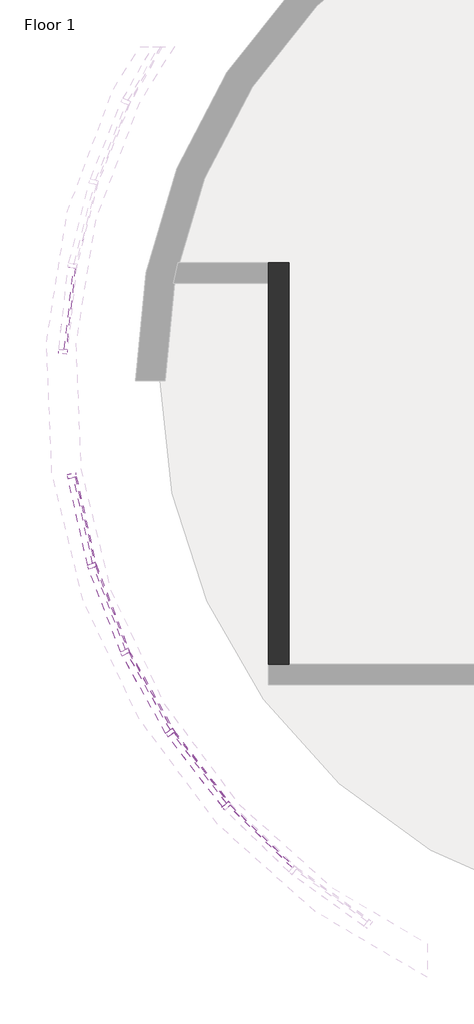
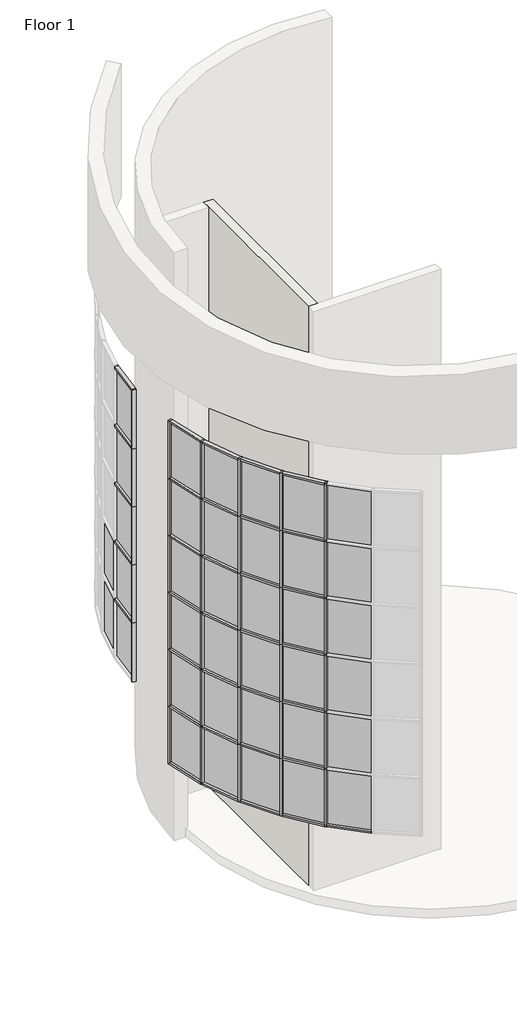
# One storey, part 1 of 11: 69 members, 37 plates, 1 wall.
"""IFC4 building model written with IfcOpenShell, lengths in millimetres."""

from ifc_helpers import new_model, si_unit, origin, place, context, project, spatial, faceted_brep, transform, mapped, element, save
from components import member_2ae322fc, member_21287d99, member_2f5ef470, member_58fb4e6d, member_233ab79f, member_23db0025, member_995572cb, member_0efe1817, member_5e46efc9, member_a397286f, member_60f5540e, member_08becc7e, member_3a2f4316, system_panel_glazed_5cc509e3, system_panel_glazed_c8739ac2, system_panel_glazed_63f175b4, system_panel_glazed_41482947

model = new_model("IFC4")

# Units and contexts
model_context = context("Model", 3, world=origin())
ifc_project = project(units=[si_unit("LENGTHUNIT", "METRE", prefix="MILLI")], contexts=[model_context])

# Site, building, storey
site = spatial("IfcSite", under=ifc_project)
building = spatial("IfcBuilding", under=site)
storey = spatial("IfcBuildingStorey", under=building, Name="Floor 1", Elevation=0.0)

# Members
placement = place(None, origin())
member_shape = member_2ae322fc(model_context)
element("IfcMember", 1, ObjectType="Rectangular Mullion1 : 2.5\" x 5\" rectangular", at=placement, inside=storey, context=model_context, shape_type="MappedRepresentation", body=[
    mapped(member_shape, transform((-3372.5370712, 19812.4001373, 15849.6), x_axis=(0.0, 0.0, 1.0), y_axis=(-0.9938242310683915, 0.11096575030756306, 0.0), z_axis=(-0.11096575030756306, -0.9938242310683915, 0.0))),
])
member_2_shape = member_21287d99(model_context)
element("IfcMember", 2, ObjectType="Rectangular Mullion1 : 2.5\" x 5\" rectangular", at=placement, inside=storey, context=model_context, shape_type="MappedRepresentation", body=[
    mapped(member_2_shape, transform((-3372.5370712, 19812.4001373, 7578.09), x_axis=(0.0, 0.0, 1.0), y_axis=(-0.9938242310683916, 0.11096575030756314, 0.0), z_axis=(-0.11096575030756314, -0.9938242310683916, 0.0))),
])
element("IfcMember", 3, ObjectType="Rectangular Mullion1 : 2.5\" x 5\" rectangular", at=placement, inside=storey, context=model_context, shape_type="MappedRepresentation", body=[
    mapped(member_2_shape, transform((-3372.5370712, 19812.4001373, 9638.03), x_axis=(0.0, 0.0, 1.0), y_axis=(-0.9938242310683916, 0.11096575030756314, 0.0), z_axis=(-0.11096575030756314, -0.9938242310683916, 0.0))),
])
element("IfcMember", 4, ObjectType="Rectangular Mullion1 : 2.5\" x 5\" rectangular", at=placement, inside=storey, context=model_context, shape_type="MappedRepresentation", body=[
    mapped(member_2_shape, transform((-3372.5370712, 19812.4001373, 11697.97), x_axis=(0.0, 0.0, 1.0), y_axis=(-0.9938242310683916, 0.11096575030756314, 0.0), z_axis=(-0.11096575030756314, -0.9938242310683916, 0.0))),
])
element("IfcMember", 5, ObjectType="Rectangular Mullion1 : 2.5\" x 5\" rectangular", at=placement, inside=storey, context=model_context, shape_type="MappedRepresentation", body=[
    mapped(member_2_shape, transform((-3372.5370712, 19812.4001373, 13757.91), x_axis=(0.0, 0.0, 1.0), y_axis=(-0.9938242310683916, 0.11096575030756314, 0.0), z_axis=(-0.11096575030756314, -0.9938242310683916, 0.0))),
])
member_3_shape = member_2f5ef470(model_context)
element("IfcMember", 6, ObjectType="Rectangular Mullion1 : 2.5\" x 5\" rectangular", at=placement, inside=storey, context=model_context, shape_type="MappedRepresentation", body=[
    mapped(member_3_shape, transform((-3234.0499823, 17868.9864839, 3657.6), x_axis=(0.0, 0.0, -1.0), y_axis=(-0.9758306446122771, -0.2185281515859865, 0.0), z_axis=(-0.21852815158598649, 0.975830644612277, 0.0))),
])
member_4_shape = member_58fb4e6d(model_context)
element("IfcMember", 7, ObjectType="Rectangular Mullion1 : 2.5\" x 5\" rectangular", at=placement, inside=storey, context=model_context, shape_type="MappedRepresentation", body=[
    mapped(member_4_shape, transform((-2941.3488489, 16561.9387028, 15849.6), x_axis=(0.0, 0.0, 1.0), y_axis=(-0.9758306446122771, -0.2185281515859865, 0.0), z_axis=(0.21852815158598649, -0.975830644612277, 0.0))),
])
member_5_shape = member_233ab79f(model_context)
element("IfcMember", 8, ObjectType="Rectangular Mullion1 : 2.5\" x 5\" rectangular", at=placement, inside=storey, context=model_context, shape_type="MappedRepresentation", body=[
    mapped(member_5_shape, transform((-2442.4749788, 15251.0699632, 15849.6), x_axis=(0.0, 0.0, 1.0), y_axis=(-0.9334258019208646, -0.3587705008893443, 0.0), z_axis=(0.35877050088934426, -0.9334258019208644, 0.0))),
])
element("IfcMember", 9, ObjectType="Rectangular Mullion1 : 2.5\" x 5\" rectangular", at=placement, inside=storey, context=model_context, shape_type="MappedRepresentation", body=[
    mapped(member_5_shape, transform((-1759.3761459, 14026.0602606, 15849.6), x_axis=(0.0, 0.0, 1.0), y_axis=(-0.8717903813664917, -0.4898790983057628, 0.0), z_axis=(0.48987909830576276, -0.8717903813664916, 0.0))),
])
element("IfcMember", 10, ObjectType="Rectangular Mullion1 : 2.5\" x 5\" rectangular", at=placement, inside=storey, context=model_context, shape_type="MappedRepresentation", body=[
    mapped(member_5_shape, transform((-906.4404132, 12912.6091289, 15849.6), x_axis=(0.0, 0.0, 1.0), y_axis=(-0.7918574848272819, -0.6107059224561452, 0.0), z_axis=(0.6107059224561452, -0.7918574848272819, 0.0))),
])
element("IfcMember", 11, ObjectType="Rectangular Mullion1 : 2.5\" x 5\" rectangular", at=placement, inside=storey, context=model_context, shape_type="MappedRepresentation", body=[
    mapped(member_5_shape, transform((-2923.0196167, 16501.3198106, 3657.6), x_axis=(0.0, 0.0, -1.0), y_axis=(-0.9334258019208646, -0.3587705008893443, 0.0), z_axis=(-0.3587705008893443, 0.9334258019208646, 0.0))),
])
element("IfcMember", 12, ObjectType="Rectangular Mullion1 : 2.5\" x 5\" rectangular", at=placement, inside=storey, context=model_context, shape_type="MappedRepresentation", body=[
    mapped(member_5_shape, transform((-2415.530354, 15193.7543494, 3657.6), x_axis=(0.0, 0.0, -1.0), y_axis=(-0.8717903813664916, -0.4898790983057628, 0.0), z_axis=(-0.4898790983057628, 0.8717903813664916, 0.0))),
])
element("IfcMember", 13, ObjectType="Rectangular Mullion1 : 2.5\" x 5\" rectangular", at=placement, inside=storey, context=model_context, shape_type="MappedRepresentation", body=[
    mapped(member_5_shape, transform((-1724.4325715, 13973.2394409, 3657.6), x_axis=(0.0, 0.0, -1.0), y_axis=(-0.7918574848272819, -0.6107059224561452, 0.0), z_axis=(-0.6107059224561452, 0.7918574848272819, 0.0))),
])
element("IfcMember", 14, ObjectType="Rectangular Mullion1 : 2.5\" x 5\" rectangular", at=placement, inside=storey, context=model_context, shape_type="MappedRepresentation", body=[
    mapped(member_5_shape, transform((-864.2312985, 12865.3917271, 3657.6), x_axis=(0.0, 0.0, -1.0), y_axis=(-0.6953047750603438, -0.7187150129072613, 0.0), z_axis=(-0.7187150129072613, 0.6953047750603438, 0.0))),
])
member_6_shape = member_23db0025(model_context)
element("IfcMember", 15, ObjectType="Rectangular Mullion1 : 2.5\" x 5\" rectangular", at=placement, inside=storey, context=model_context, shape_type="MappedRepresentation", body=[
    mapped(member_6_shape, transform((-2941.3488489, 16561.9387028, 5710.7666667), x_axis=(0.0, 0.0, 1.0), y_axis=(-0.9758306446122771, -0.2185281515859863, 0.0), z_axis=(0.2185281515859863, -0.9758306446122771, 0.0))),
])
member_7_shape = member_995572cb(model_context)
element("IfcMember", 16, ObjectType="Rectangular Mullion1 : 2.5\" x 5\" rectangular", at=placement, inside=storey, context=model_context, shape_type="MappedRepresentation", body=[
    mapped(member_7_shape, transform((-2442.4749788, 15251.0699632, 5710.7666667), x_axis=(0.0, 0.0, 1.0), y_axis=(-0.9334258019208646, -0.3587705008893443, 0.0), z_axis=(0.35877050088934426, -0.9334258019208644, 0.0))),
])
element("IfcMember", 17, ObjectType="Rectangular Mullion1 : 2.5\" x 5\" rectangular", at=placement, inside=storey, context=model_context, shape_type="MappedRepresentation", body=[
    mapped(member_7_shape, transform((-1759.3761459, 14026.0602606, 5710.7666667), x_axis=(0.0, 0.0, 1.0), y_axis=(-0.8717903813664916, -0.4898790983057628, 0.0), z_axis=(0.4898790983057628, -0.8717903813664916, 0.0))),
])
element("IfcMember", 18, ObjectType="Rectangular Mullion1 : 2.5\" x 5\" rectangular", at=placement, inside=storey, context=model_context, shape_type="MappedRepresentation", body=[
    mapped(member_7_shape, transform((-906.4404132, 12912.6091289, 5710.7666667), x_axis=(0.0, 0.0, 1.0), y_axis=(-0.7918574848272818, -0.6107059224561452, 0.0), z_axis=(0.6107059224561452, -0.7918574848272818, 0.0))),
])
element("IfcMember", 19, ObjectType="Rectangular Mullion1 : 2.5\" x 5\" rectangular", at=placement, inside=storey, context=model_context, shape_type="MappedRepresentation", body=[
    mapped(member_6_shape, transform((-2941.3488489, 16561.9387028, 7732.1833333), x_axis=(0.0, 0.0, 1.0), y_axis=(-0.9758306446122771, -0.2185281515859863, 0.0), z_axis=(0.2185281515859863, -0.9758306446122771, 0.0))),
])
element("IfcMember", 20, ObjectType="Rectangular Mullion1 : 2.5\" x 5\" rectangular", at=placement, inside=storey, context=model_context, shape_type="MappedRepresentation", body=[
    mapped(member_6_shape, transform((-2941.3488489, 16561.9387028, 9753.6), x_axis=(0.0, 0.0, 1.0), y_axis=(-0.9758306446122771, -0.2185281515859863, 0.0), z_axis=(0.2185281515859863, -0.9758306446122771, 0.0))),
])
element("IfcMember", 21, ObjectType="Rectangular Mullion1 : 2.5\" x 5\" rectangular", at=placement, inside=storey, context=model_context, shape_type="MappedRepresentation", body=[
    mapped(member_6_shape, transform((-2941.3488489, 16561.9387028, 11775.0166667), x_axis=(0.0, 0.0, 1.0), y_axis=(-0.9758306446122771, -0.2185281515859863, 0.0), z_axis=(0.2185281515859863, -0.9758306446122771, 0.0))),
])
element("IfcMember", 22, ObjectType="Rectangular Mullion1 : 2.5\" x 5\" rectangular", at=placement, inside=storey, context=model_context, shape_type="MappedRepresentation", body=[
    mapped(member_7_shape, transform((-2442.4749788, 15251.0699632, 7732.1833333), x_axis=(0.0, 0.0, 1.0), y_axis=(-0.9334258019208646, -0.3587705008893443, 0.0), z_axis=(0.35877050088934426, -0.9334258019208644, 0.0))),
])
element("IfcMember", 23, ObjectType="Rectangular Mullion1 : 2.5\" x 5\" rectangular", at=placement, inside=storey, context=model_context, shape_type="MappedRepresentation", body=[
    mapped(member_7_shape, transform((-1759.3761459, 14026.0602606, 7732.1833333), x_axis=(0.0, 0.0, 1.0), y_axis=(-0.8717903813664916, -0.489879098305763, 0.0), z_axis=(0.489879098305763, -0.8717903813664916, 0.0))),
])
element("IfcMember", 24, ObjectType="Rectangular Mullion1 : 2.5\" x 5\" rectangular", at=placement, inside=storey, context=model_context, shape_type="MappedRepresentation", body=[
    mapped(member_7_shape, transform((-906.4404132, 12912.6091289, 7732.1833333), x_axis=(0.0, 0.0, 1.0), y_axis=(-0.7918574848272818, -0.6107059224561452, 0.0), z_axis=(0.6107059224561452, -0.7918574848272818, 0.0))),
])
element("IfcMember", 25, ObjectType="Rectangular Mullion1 : 2.5\" x 5\" rectangular", at=placement, inside=storey, context=model_context, shape_type="MappedRepresentation", body=[
    mapped(member_7_shape, transform((-2442.4749788, 15251.0699632, 9753.6), x_axis=(0.0, 0.0, 1.0), y_axis=(-0.9334258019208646, -0.3587705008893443, 0.0), z_axis=(0.35877050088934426, -0.9334258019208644, 0.0))),
])
element("IfcMember", 26, ObjectType="Rectangular Mullion1 : 2.5\" x 5\" rectangular", at=placement, inside=storey, context=model_context, shape_type="MappedRepresentation", body=[
    mapped(member_7_shape, transform((-1759.3761459, 14026.0602606, 9753.6), x_axis=(0.0, 0.0, 1.0), y_axis=(-0.8717903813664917, -0.4898790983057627, 0.0), z_axis=(0.48987909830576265, -0.8717903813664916, 0.0))),
])
element("IfcMember", 27, ObjectType="Rectangular Mullion1 : 2.5\" x 5\" rectangular", at=placement, inside=storey, context=model_context, shape_type="MappedRepresentation", body=[
    mapped(member_7_shape, transform((-906.4404132, 12912.6091289, 9753.6), x_axis=(0.0, 0.0, 1.0), y_axis=(-0.7918574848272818, -0.6107059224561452, 0.0), z_axis=(0.6107059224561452, -0.7918574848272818, 0.0))),
])
element("IfcMember", 28, ObjectType="Rectangular Mullion1 : 2.5\" x 5\" rectangular", at=placement, inside=storey, context=model_context, shape_type="MappedRepresentation", body=[
    mapped(member_7_shape, transform((-2442.4749788, 15251.0699632, 11775.0166667), x_axis=(0.0, 0.0, 1.0), y_axis=(-0.9334258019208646, -0.3587705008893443, 0.0), z_axis=(0.35877050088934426, -0.9334258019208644, 0.0))),
])
element("IfcMember", 29, ObjectType="Rectangular Mullion1 : 2.5\" x 5\" rectangular", at=placement, inside=storey, context=model_context, shape_type="MappedRepresentation", body=[
    mapped(member_7_shape, transform((-1759.3761459, 14026.0602606, 11775.0166667), x_axis=(0.0, 0.0, 1.0), y_axis=(-0.8717903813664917, -0.4898790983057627, 0.0), z_axis=(0.48987909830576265, -0.8717903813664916, 0.0))),
])
element("IfcMember", 30, ObjectType="Rectangular Mullion1 : 2.5\" x 5\" rectangular", at=placement, inside=storey, context=model_context, shape_type="MappedRepresentation", body=[
    mapped(member_7_shape, transform((-906.4404132, 12912.6091289, 11775.0166667), x_axis=(0.0, 0.0, 1.0), y_axis=(-0.7918574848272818, -0.6107059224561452, 0.0), z_axis=(0.6107059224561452, -0.7918574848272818, 0.0))),
])
element("IfcMember", 31, ObjectType="Rectangular Mullion1 : 2.5\" x 5\" rectangular", at=placement, inside=storey, context=model_context, shape_type="MappedRepresentation", body=[
    mapped(member_6_shape, transform((-2941.3488489, 16561.9387028, 13796.4333333), x_axis=(0.0, 0.0, 1.0), y_axis=(-0.9758306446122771, -0.2185281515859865, 0.0), z_axis=(0.21852815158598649, -0.975830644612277, 0.0))),
])
element("IfcMember", 32, ObjectType="Rectangular Mullion1 : 2.5\" x 5\" rectangular", at=placement, inside=storey, context=model_context, shape_type="MappedRepresentation", body=[
    mapped(member_7_shape, transform((-2442.4749788, 15251.0699632, 13796.4333333), x_axis=(0.0, 0.0, 1.0), y_axis=(-0.9334258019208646, -0.3587705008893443, 0.0), z_axis=(0.35877050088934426, -0.9334258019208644, 0.0))),
])
element("IfcMember", 33, ObjectType="Rectangular Mullion1 : 2.5\" x 5\" rectangular", at=placement, inside=storey, context=model_context, shape_type="MappedRepresentation", body=[
    mapped(member_7_shape, transform((-1759.3761459, 14026.0602606, 13796.4333333), x_axis=(0.0, 0.0, 1.0), y_axis=(-0.8717903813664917, -0.4898790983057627, 0.0), z_axis=(0.48987909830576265, -0.8717903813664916, 0.0))),
])
element("IfcMember", 34, ObjectType="Rectangular Mullion1 : 2.5\" x 5\" rectangular", at=placement, inside=storey, context=model_context, shape_type="MappedRepresentation", body=[
    mapped(member_7_shape, transform((-906.4404132, 12912.6091289, 13796.4333333), x_axis=(0.0, 0.0, 1.0), y_axis=(-0.7918574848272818, -0.6107059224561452, 0.0), z_axis=(0.6107059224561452, -0.7918574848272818, 0.0))),
])
member_8_shape = member_0efe1817(model_context)
element("IfcMember", 35, ObjectType="Rectangular Mullion1 : 2.5\" x 5\" rectangular", at=placement, inside=storey, context=model_context, shape_type="MappedRepresentation", body=[
    mapped(member_8_shape, transform((-2934.4105801, 16530.9560798, 3657.6), x_axis=(0.2902135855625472, -0.9569618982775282, 0.0), y_axis=(-0.9569618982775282, -0.2902135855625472, 0.0), z_axis=(0.0, 0.0, -1.0))),
])
element("IfcMember", 36, ObjectType="Rectangular Mullion1 : 2.5\" x 5\" rectangular", at=placement, inside=storey, context=model_context, shape_type="MappedRepresentation", body=[
    mapped(member_8_shape, transform((-2431.0840154, 15221.433694, 3657.6), x_axis=(0.42544243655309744, -0.9049854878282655, 0.0), y_axis=(-0.9049854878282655, -0.42544243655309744, 0.0), z_axis=(0.0, 0.0, -1.0))),
])
element("IfcMember", 37, ObjectType="Rectangular Mullion1 : 2.5\" x 5\" rectangular", at=placement, inside=storey, context=model_context, shape_type="MappedRepresentation", body=[
    mapped(member_8_shape, transform((-1743.8224845, 13998.380916, 3657.6), x_axis=(0.5517419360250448, -0.8340148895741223, 0.0), y_axis=(-0.8340148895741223, -0.5517419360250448, 0.0), z_axis=(0.0, 0.0, -1.0))),
])
element("IfcMember", 38, ObjectType="Rectangular Mullion1 : 2.5\" x 5\" rectangular", at=placement, inside=storey, context=model_context, shape_type="MappedRepresentation", body=[
    mapped(member_8_shape, transform((-887.0505002, 12887.4676537, 3657.6), x_axis=(0.6664612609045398, -0.7455396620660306, 0.0), y_axis=(-0.7455396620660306, -0.6664612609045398, 0.0), z_axis=(0.0, 0.0, -1.0))),
])
member_9_shape = member_5e46efc9(model_context)
element("IfcMember", 39, ObjectType="Rectangular Mullion1 : 2.5\" x 5\" rectangular", at=placement, inside=storey, context=model_context, shape_type="MappedRepresentation", body=[
    mapped(member_9_shape, transform((-2934.4105801, 16530.9560798, 5710.7666667), x_axis=(0.2902135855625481, -0.9569618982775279, 0.0), y_axis=(-0.9569618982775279, -0.2902135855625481, 0.0), z_axis=(0.0, 0.0, -1.0))),
])
element("IfcMember", 40, ObjectType="Rectangular Mullion1 : 2.5\" x 5\" rectangular", at=placement, inside=storey, context=model_context, shape_type="MappedRepresentation", body=[
    mapped(member_9_shape, transform((-2431.0840154, 15221.433694, 5710.7666667), x_axis=(0.4254424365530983, -0.9049854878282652, 0.0), y_axis=(-0.9049854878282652, -0.4254424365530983, 0.0), z_axis=(0.0, 0.0, -1.0))),
])
element("IfcMember", 41, ObjectType="Rectangular Mullion1 : 2.5\" x 5\" rectangular", at=placement, inside=storey, context=model_context, shape_type="MappedRepresentation", body=[
    mapped(member_9_shape, transform((-1743.8224845, 13998.380916, 5710.7666667), x_axis=(0.5517419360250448, -0.8340148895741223, 0.0), y_axis=(-0.8340148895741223, -0.5517419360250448, 0.0), z_axis=(0.0, 0.0, -1.0))),
])
element("IfcMember", 42, ObjectType="Rectangular Mullion1 : 2.5\" x 5\" rectangular", at=placement, inside=storey, context=model_context, shape_type="MappedRepresentation", body=[
    mapped(member_9_shape, transform((-887.0505002, 12887.4676537, 5710.7666667), x_axis=(0.6664612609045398, -0.7455396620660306, 0.0), y_axis=(-0.7455396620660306, -0.6664612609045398, 0.0), z_axis=(0.0, 0.0, -1.0))),
])
element("IfcMember", 43, ObjectType="Rectangular Mullion1 : 2.5\" x 5\" rectangular", at=placement, inside=storey, context=model_context, shape_type="MappedRepresentation", body=[
    mapped(member_9_shape, transform((-2934.4105801, 16530.9560798, 7732.1833333), x_axis=(0.2902135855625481, -0.9569618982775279, 0.0), y_axis=(-0.9569618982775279, -0.2902135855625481, 0.0), z_axis=(0.0, 0.0, -1.0))),
])
element("IfcMember", 44, ObjectType="Rectangular Mullion1 : 2.5\" x 5\" rectangular", at=placement, inside=storey, context=model_context, shape_type="MappedRepresentation", body=[
    mapped(member_9_shape, transform((-2431.0840154, 15221.433694, 7732.1833333), x_axis=(0.4254424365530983, -0.9049854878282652, 0.0), y_axis=(-0.9049854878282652, -0.4254424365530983, 0.0), z_axis=(0.0, 0.0, -1.0))),
])
element("IfcMember", 45, ObjectType="Rectangular Mullion1 : 2.5\" x 5\" rectangular", at=placement, inside=storey, context=model_context, shape_type="MappedRepresentation", body=[
    mapped(member_9_shape, transform((-1743.8224845, 13998.380916, 7732.1833333), x_axis=(0.5517419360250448, -0.8340148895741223, 0.0), y_axis=(-0.8340148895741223, -0.5517419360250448, 0.0), z_axis=(0.0, 0.0, -1.0))),
])
element("IfcMember", 46, ObjectType="Rectangular Mullion1 : 2.5\" x 5\" rectangular", at=placement, inside=storey, context=model_context, shape_type="MappedRepresentation", body=[
    mapped(member_9_shape, transform((-887.0505002, 12887.4676537, 7732.1833333), x_axis=(0.6664612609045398, -0.7455396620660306, 0.0), y_axis=(-0.7455396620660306, -0.6664612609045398, 0.0), z_axis=(0.0, 0.0, -1.0))),
])
element("IfcMember", 47, ObjectType="Rectangular Mullion1 : 2.5\" x 5\" rectangular", at=placement, inside=storey, context=model_context, shape_type="MappedRepresentation", body=[
    mapped(member_9_shape, transform((-2934.4105801, 16530.9560798, 9753.6), x_axis=(0.2902135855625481, -0.9569618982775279, 0.0), y_axis=(-0.9569618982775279, -0.2902135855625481, 0.0), z_axis=(0.0, 0.0, -1.0))),
])
element("IfcMember", 48, ObjectType="Rectangular Mullion1 : 2.5\" x 5\" rectangular", at=placement, inside=storey, context=model_context, shape_type="MappedRepresentation", body=[
    mapped(member_9_shape, transform((-2431.0840154, 15221.433694, 9753.6), x_axis=(0.4254424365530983, -0.9049854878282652, 0.0), y_axis=(-0.9049854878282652, -0.4254424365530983, 0.0), z_axis=(0.0, 0.0, -1.0))),
])
element("IfcMember", 49, ObjectType="Rectangular Mullion1 : 2.5\" x 5\" rectangular", at=placement, inside=storey, context=model_context, shape_type="MappedRepresentation", body=[
    mapped(member_9_shape, transform((-1743.8224845, 13998.380916, 9753.6), x_axis=(0.5517419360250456, -0.8340148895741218, 0.0), y_axis=(-0.8340148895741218, -0.5517419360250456, 0.0), z_axis=(0.0, 0.0, -1.0))),
])
element("IfcMember", 50, ObjectType="Rectangular Mullion1 : 2.5\" x 5\" rectangular", at=placement, inside=storey, context=model_context, shape_type="MappedRepresentation", body=[
    mapped(member_9_shape, transform((-887.0505002, 12887.4676537, 9753.6), x_axis=(0.6664612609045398, -0.7455396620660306, 0.0), y_axis=(-0.7455396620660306, -0.6664612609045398, 0.0), z_axis=(0.0, 0.0, -1.0))),
])
element("IfcMember", 51, ObjectType="Rectangular Mullion1 : 2.5\" x 5\" rectangular", at=placement, inside=storey, context=model_context, shape_type="MappedRepresentation", body=[
    mapped(member_9_shape, transform((-2934.4105801, 16530.9560798, 11775.0166667), x_axis=(0.2902135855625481, -0.9569618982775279, 0.0), y_axis=(-0.9569618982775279, -0.2902135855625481, 0.0), z_axis=(0.0, 0.0, -1.0))),
])
element("IfcMember", 52, ObjectType="Rectangular Mullion1 : 2.5\" x 5\" rectangular", at=placement, inside=storey, context=model_context, shape_type="MappedRepresentation", body=[
    mapped(member_9_shape, transform((-2431.0840154, 15221.433694, 11775.0166667), x_axis=(0.4254424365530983, -0.9049854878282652, 0.0), y_axis=(-0.9049854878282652, -0.4254424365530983, 0.0), z_axis=(0.0, 0.0, -1.0))),
])
element("IfcMember", 53, ObjectType="Rectangular Mullion1 : 2.5\" x 5\" rectangular", at=placement, inside=storey, context=model_context, shape_type="MappedRepresentation", body=[
    mapped(member_9_shape, transform((-1743.8224845, 13998.380916, 11775.0166667), x_axis=(0.5517419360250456, -0.8340148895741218, 0.0), y_axis=(-0.8340148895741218, -0.5517419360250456, 0.0), z_axis=(0.0, 0.0, -1.0))),
])
element("IfcMember", 54, ObjectType="Rectangular Mullion1 : 2.5\" x 5\" rectangular", at=placement, inside=storey, context=model_context, shape_type="MappedRepresentation", body=[
    mapped(member_9_shape, transform((-887.0505002, 12887.4676537, 11775.0166667), x_axis=(0.6664612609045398, -0.7455396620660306, 0.0), y_axis=(-0.7455396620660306, -0.6664612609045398, 0.0), z_axis=(0.0, 0.0, -1.0))),
])
element("IfcMember", 55, ObjectType="Rectangular Mullion1 : 2.5\" x 5\" rectangular", at=placement, inside=storey, context=model_context, shape_type="MappedRepresentation", body=[
    mapped(member_8_shape, transform((-2934.4105801, 16530.9560798, 13796.4333333), x_axis=(0.2902135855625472, -0.9569618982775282, 0.0), y_axis=(-0.9569618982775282, -0.2902135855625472, 0.0), z_axis=(0.0, 0.0, -1.0))),
])
element("IfcMember", 56, ObjectType="Rectangular Mullion1 : 2.5\" x 5\" rectangular", at=placement, inside=storey, context=model_context, shape_type="MappedRepresentation", body=[
    mapped(member_8_shape, transform((-2431.0840154, 15221.433694, 13796.4333333), x_axis=(0.4254424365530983, -0.9049854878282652, 0.0), y_axis=(-0.9049854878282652, -0.4254424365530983, 0.0), z_axis=(0.0, 0.0, -1.0))),
])
element("IfcMember", 57, ObjectType="Rectangular Mullion1 : 2.5\" x 5\" rectangular", at=placement, inside=storey, context=model_context, shape_type="MappedRepresentation", body=[
    mapped(member_8_shape, transform((-1743.8224845, 13998.380916, 13796.4333333), x_axis=(0.5517419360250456, -0.8340148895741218, 0.0), y_axis=(-0.8340148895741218, -0.5517419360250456, 0.0), z_axis=(0.0, 0.0, -1.0))),
])
element("IfcMember", 58, ObjectType="Rectangular Mullion1 : 2.5\" x 5\" rectangular", at=placement, inside=storey, context=model_context, shape_type="MappedRepresentation", body=[
    mapped(member_8_shape, transform((-887.0505002, 12887.4676537, 13796.4333333), x_axis=(0.6664612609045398, -0.7455396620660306, 0.0), y_axis=(-0.7455396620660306, -0.6664612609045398, 0.0), z_axis=(0.0, 0.0, -1.0))),
])
member_10_shape = member_a397286f(model_context)
element("IfcMember", 59, ObjectType="Rectangular Mullion1 : 2.5\" x 5\" rectangular", at=placement, inside=storey, context=model_context, shape_type="MappedRepresentation", body=[
    mapped(member_10_shape, transform((-3379.5833964, 19749.2922986, 5486.4), x_axis=(-0.11096575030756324, -0.9938242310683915, 0.0), y_axis=(-0.9938242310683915, 0.11096575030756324, 0.0), z_axis=(0.0, 0.0, -1.0))),
])
member_11_shape = member_60f5540e(model_context)
element("IfcMember", 60, ObjectType="Rectangular Mullion1 : 2.5\" x 5\" rectangular", at=placement, inside=storey, context=model_context, shape_type="MappedRepresentation", body=[
    mapped(member_11_shape, transform((-3247.9265199, 17930.9517299, 15849.6), x_axis=(-0.21852815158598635, 0.9758306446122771, 0.0), y_axis=(-0.9758306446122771, -0.21852815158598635, 0.0), z_axis=(0.0, 0.0, 1.0))),
])
member_12_shape = member_08becc7e(model_context)
element("IfcMember", 61, ObjectType="Rectangular Mullion1 : 2.5\" x 5\" rectangular", at=placement, inside=storey, context=model_context, shape_type="MappedRepresentation", body=[
    mapped(member_12_shape, transform((-3379.5833964, 19749.2922986, 7578.09), x_axis=(-0.11096575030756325, -0.9938242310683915, 0.0), y_axis=(-0.9938242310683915, 0.11096575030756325, 0.0), z_axis=(0.0, 0.0, -1.0))),
])
element("IfcMember", 62, ObjectType="Rectangular Mullion1 : 2.5\" x 5\" rectangular", at=placement, inside=storey, context=model_context, shape_type="MappedRepresentation", body=[
    mapped(member_12_shape, transform((-3379.5833964, 19749.2922986, 9638.03), x_axis=(-0.11096575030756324, -0.9938242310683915, 0.0), y_axis=(-0.9938242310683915, 0.11096575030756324, 0.0), z_axis=(0.0, 0.0, -1.0))),
])
element("IfcMember", 63, ObjectType="Rectangular Mullion1 : 2.5\" x 5\" rectangular", at=placement, inside=storey, context=model_context, shape_type="MappedRepresentation", body=[
    mapped(member_12_shape, transform((-3379.5833964, 19749.2922986, 11697.97), x_axis=(-0.11096575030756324, -0.9938242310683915, 0.0), y_axis=(-0.9938242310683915, 0.11096575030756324, 0.0), z_axis=(0.0, 0.0, -1.0))),
])
element("IfcMember", 64, ObjectType="Rectangular Mullion1 : 2.5\" x 5\" rectangular", at=placement, inside=storey, context=model_context, shape_type="MappedRepresentation", body=[
    mapped(member_10_shape, transform((-3379.5833964, 19749.2922986, 13757.91), x_axis=(-0.11096575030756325, -0.9938242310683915, 0.0), y_axis=(-0.9938242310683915, 0.11096575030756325, 0.0), z_axis=(0.0, 0.0, -1.0))),
])
element("IfcMember", 65, ObjectType="Rectangular Mullion1 : 2.5\" x 5\" rectangular", at=placement, inside=storey, context=model_context, shape_type="MappedRepresentation", body=[
    mapped(member_11_shape, transform((-3247.9265199, 17930.9517299, 5710.7666667), x_axis=(-0.21852815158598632, 0.9758306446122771, 0.0), y_axis=(-0.9758306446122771, -0.21852815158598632, 0.0), z_axis=(0.0, 0.0, 1.0))),
])
member_13_shape = member_3a2f4316(model_context)
element("IfcMember", 66, ObjectType="Rectangular Mullion1 : 2.5\" x 5\" rectangular", at=placement, inside=storey, context=model_context, shape_type="MappedRepresentation", body=[
    mapped(member_13_shape, transform((-3247.9265199, 17930.9517299, 7732.1833333), x_axis=(-0.21852815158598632, 0.9758306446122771, 0.0), y_axis=(-0.9758306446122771, -0.21852815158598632, 0.0), z_axis=(0.0, 0.0, 1.0))),
])
element("IfcMember", 67, ObjectType="Rectangular Mullion1 : 2.5\" x 5\" rectangular", at=placement, inside=storey, context=model_context, shape_type="MappedRepresentation", body=[
    mapped(member_13_shape, transform((-3247.9265199, 17930.9517299, 9753.6), x_axis=(-0.21852815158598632, 0.9758306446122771, 0.0), y_axis=(-0.9758306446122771, -0.21852815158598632, 0.0), z_axis=(0.0, 0.0, 1.0))),
])
element("IfcMember", 68, ObjectType="Rectangular Mullion1 : 2.5\" x 5\" rectangular", at=placement, inside=storey, context=model_context, shape_type="MappedRepresentation", body=[
    mapped(member_13_shape, transform((-3247.9265199, 17930.9517299, 11775.0166667), x_axis=(-0.21852815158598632, 0.9758306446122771, 0.0), y_axis=(-0.9758306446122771, -0.21852815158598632, 0.0), z_axis=(0.0, 0.0, 1.0))),
])
element("IfcMember", 69, ObjectType="Rectangular Mullion1 : 2.5\" x 5\" rectangular", at=placement, inside=storey, context=model_context, shape_type="MappedRepresentation", body=[
    mapped(member_13_shape, transform((-3247.9265199, 17930.9517299, 13796.4333333), x_axis=(-0.21852815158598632, 0.9758306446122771, 0.0), y_axis=(-0.9758306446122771, -0.21852815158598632, 0.0), z_axis=(0.0, 0.0, 1.0))),
])

# Plates
system_panel_glazed_shape = system_panel_glazed_5cc509e3(model_context)
element("IfcPlate", 70, ObjectType="System Panel : Glazed", at=placement, inside=storey, context=model_context, shape_type="MappedRepresentation", body=[
    mapped(system_panel_glazed_shape, transform((-3303.224481, 20433.1730471, 5549.9), x_axis=(-0.11096575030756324, -0.9938242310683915, 0.0), y_axis=(0.9938242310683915, -0.11096575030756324, 0.0), z_axis=(0.0, 0.0, 1.0))),
])
element("IfcPlate", 71, ObjectType="System Panel : Glazed", at=placement, inside=storey, context=model_context, shape_type="MappedRepresentation", body=[
    mapped(system_panel_glazed_shape, transform((-3303.224481, 20433.1730471, 7609.84), x_axis=(-0.11096575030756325, -0.9938242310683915, 0.0), y_axis=(0.9938242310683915, -0.11096575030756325, 0.0), z_axis=(0.0, 0.0, 1.0))),
])
element("IfcPlate", 72, ObjectType="System Panel : Glazed", at=placement, inside=storey, context=model_context, shape_type="MappedRepresentation", body=[
    mapped(system_panel_glazed_shape, transform((-3303.224481, 20433.1730471, 9669.78), x_axis=(-0.11096575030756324, -0.9938242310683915, 0.0), y_axis=(0.9938242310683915, -0.11096575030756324, 0.0), z_axis=(0.0, 0.0, 1.0))),
])
element("IfcPlate", 73, ObjectType="System Panel : Glazed", at=placement, inside=storey, context=model_context, shape_type="MappedRepresentation", body=[
    mapped(system_panel_glazed_shape, transform((-3303.224481, 20433.1730471, 11729.72), x_axis=(-0.11096575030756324, -0.9938242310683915, 0.0), y_axis=(0.9938242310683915, -0.11096575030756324, 0.0), z_axis=(0.0, 0.0, 1.0))),
])
element("IfcPlate", 74, ObjectType="System Panel : Glazed", at=placement, inside=storey, context=model_context, shape_type="MappedRepresentation", body=[
    mapped(system_panel_glazed_shape, transform((-3303.224481, 20433.1730471, 13789.66), x_axis=(-0.11096575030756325, -0.9938242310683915, 0.0), y_axis=(0.9938242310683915, -0.11096575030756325, 0.0), z_axis=(0.0, 0.0, 1.0))),
])
system_panel_glazed_2_shape = system_panel_glazed_c8739ac2(model_context)
element("IfcPlate", 75, ObjectType="System Panel : Glazed", at=placement, inside=storey, context=model_context, shape_type="MappedRepresentation", body=[
    mapped(system_panel_glazed_2_shape, transform((-3087.6994156, 17215.4625934, 3721.1), x_axis=(0.21852815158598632, -0.9758306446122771, 0.0), y_axis=(0.9758306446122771, 0.21852815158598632, 0.0), z_axis=(0.0, 0.0, 1.0))),
])
element("IfcPlate", 76, ObjectType="System Panel : Glazed", at=placement, inside=storey, context=model_context, shape_type="MappedRepresentation", body=[
    mapped(system_panel_glazed_2_shape, transform((-3087.6994156, 17215.4625934, 5742.5166667), x_axis=(0.21852815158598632, -0.9758306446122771, 0.0), y_axis=(0.9758306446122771, 0.21852815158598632, 0.0), z_axis=(0.0, 0.0, 1.0))),
])
element("IfcPlate", 77, ObjectType="System Panel : Glazed", at=placement, inside=storey, context=model_context, shape_type="MappedRepresentation", body=[
    mapped(system_panel_glazed_2_shape, transform((-3087.6994156, 17215.4625934, 7763.9333333), x_axis=(0.21852815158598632, -0.9758306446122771, 0.0), y_axis=(0.9758306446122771, 0.21852815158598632, 0.0), z_axis=(0.0, 0.0, 1.0))),
])
element("IfcPlate", 78, ObjectType="System Panel : Glazed", at=placement, inside=storey, context=model_context, shape_type="MappedRepresentation", body=[
    mapped(system_panel_glazed_2_shape, transform((-3087.6994156, 17215.4625934, 9785.35), x_axis=(0.21852815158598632, -0.9758306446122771, 0.0), y_axis=(0.9758306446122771, 0.21852815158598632, 0.0), z_axis=(0.0, 0.0, 1.0))),
])
element("IfcPlate", 79, ObjectType="System Panel : Glazed", at=placement, inside=storey, context=model_context, shape_type="MappedRepresentation", body=[
    mapped(system_panel_glazed_2_shape, transform((-3087.6994156, 17215.4625934, 11806.7666667), x_axis=(0.21852815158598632, -0.9758306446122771, 0.0), y_axis=(0.9758306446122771, 0.21852815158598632, 0.0), z_axis=(0.0, 0.0, 1.0))),
])
element("IfcPlate", 80, ObjectType="System Panel : Glazed", at=placement, inside=storey, context=model_context, shape_type="MappedRepresentation", body=[
    mapped(system_panel_glazed_2_shape, transform((-3087.6994156, 17215.4625934, 13828.1833333), x_axis=(0.21852815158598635, -0.9758306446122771, 0.0), y_axis=(0.9758306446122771, 0.21852815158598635, 0.0), z_axis=(0.0, 0.0, 1.0))),
])
system_panel_glazed_3_shape = system_panel_glazed_63f175b4(model_context)
element("IfcPlate", 81, ObjectType="System Panel : Glazed", at=placement, inside=storey, context=model_context, shape_type="MappedRepresentation", body=[
    mapped(system_panel_glazed_3_shape, transform((-3069.2811615, 21721.8014435, 5549.9), x_axis=(-0.24544844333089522, -0.9694096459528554, 0.0), y_axis=(0.9694096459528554, -0.24544844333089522, 0.0), z_axis=(0.0, 0.0, 1.0))),
])
element("IfcPlate", 82, ObjectType="System Panel : Glazed", at=placement, inside=storey, context=model_context, shape_type="MappedRepresentation", body=[
    mapped(system_panel_glazed_3_shape, transform((-3069.2811615, 21721.8014435, 7609.84), x_axis=(-0.2454484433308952, -0.9694096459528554, 0.0), y_axis=(0.9694096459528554, -0.2454484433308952, 0.0), z_axis=(0.0, 0.0, 1.0))),
])
system_panel_glazed_4_shape = system_panel_glazed_41482947(model_context)
element("IfcPlate", 83, ObjectType="System Panel : Glazed", at=placement, inside=storey, context=model_context, shape_type="MappedRepresentation", body=[
    mapped(system_panel_glazed_4_shape, transform((-2682.7472977, 15876.1948869, 3721.1), x_axis=(0.35877050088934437, -0.9334258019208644, 0.0), y_axis=(0.9334258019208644, 0.35877050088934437, 0.0), z_axis=(0.0, 0.0, 1.0))),
])
element("IfcPlate", 84, ObjectType="System Panel : Glazed", at=placement, inside=storey, context=model_context, shape_type="MappedRepresentation", body=[
    mapped(system_panel_glazed_4_shape, transform((-2087.45325, 14609.907305, 3721.1), x_axis=(0.4898790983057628, -0.8717903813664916, 0.0), y_axis=(0.8717903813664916, 0.4898790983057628, 0.0), z_axis=(0.0, 0.0, 1.0))),
])
element("IfcPlate", 85, ObjectType="System Panel : Glazed", at=placement, inside=storey, context=model_context, shape_type="MappedRepresentation", body=[
    mapped(system_panel_glazed_4_shape, transform((-1315.4364924, 13442.9242849, 3721.1), x_axis=(0.6107059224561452, -0.7918574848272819, 0.0), y_axis=(0.7918574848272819, 0.6107059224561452, 0.0), z_axis=(0.0, 0.0, 1.0))),
])
element("IfcPlate", 86, ObjectType="System Panel : Glazed", at=placement, inside=storey, context=model_context, shape_type="MappedRepresentation", body=[
    mapped(system_panel_glazed_4_shape, transform((-382.9004132, 12399.7389205, 3721.1), x_axis=(0.7187150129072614, -0.6953047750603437, 0.0), y_axis=(0.6953047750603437, 0.7187150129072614, 0.0), z_axis=(0.0, 0.0, 1.0))),
])
element("IfcPlate", 87, ObjectType="System Panel : Glazed", at=placement, inside=storey, context=model_context, shape_type="MappedRepresentation", body=[
    mapped(system_panel_glazed_4_shape, transform((-2682.7472977, 15876.1948869, 5742.5166667), x_axis=(0.3587705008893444, -0.9334258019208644, 0.0), y_axis=(0.9334258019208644, 0.3587705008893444, 0.0), z_axis=(0.0, 0.0, 1.0))),
])
element("IfcPlate", 88, ObjectType="System Panel : Glazed", at=placement, inside=storey, context=model_context, shape_type="MappedRepresentation", body=[
    mapped(system_panel_glazed_4_shape, transform((-2087.45325, 14609.907305, 5742.5166667), x_axis=(0.4898790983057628, -0.8717903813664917, 0.0), y_axis=(0.8717903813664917, 0.4898790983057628, 0.0), z_axis=(0.0, 0.0, 1.0))),
])
element("IfcPlate", 89, ObjectType="System Panel : Glazed", at=placement, inside=storey, context=model_context, shape_type="MappedRepresentation", body=[
    mapped(system_panel_glazed_4_shape, transform((-1315.4364924, 13442.9242849, 5742.5166667), x_axis=(0.6107059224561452, -0.7918574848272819, 0.0), y_axis=(0.7918574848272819, 0.6107059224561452, 0.0), z_axis=(0.0, 0.0, 1.0))),
])
element("IfcPlate", 90, ObjectType="System Panel : Glazed", at=placement, inside=storey, context=model_context, shape_type="MappedRepresentation", body=[
    mapped(system_panel_glazed_4_shape, transform((-382.9004132, 12399.7389205, 5742.5166667), x_axis=(0.7187150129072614, -0.6953047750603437, 0.0), y_axis=(0.6953047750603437, 0.7187150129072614, 0.0), z_axis=(0.0, 0.0, 1.0))),
])
element("IfcPlate", 91, ObjectType="System Panel : Glazed", at=placement, inside=storey, context=model_context, shape_type="MappedRepresentation", body=[
    mapped(system_panel_glazed_4_shape, transform((-2682.7472977, 15876.1948869, 7763.9333333), x_axis=(0.3587705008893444, -0.9334258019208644, 0.0), y_axis=(0.9334258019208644, 0.3587705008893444, 0.0), z_axis=(0.0, 0.0, 1.0))),
])
element("IfcPlate", 92, ObjectType="System Panel : Glazed", at=placement, inside=storey, context=model_context, shape_type="MappedRepresentation", body=[
    mapped(system_panel_glazed_4_shape, transform((-2087.45325, 14609.907305, 7763.9333333), x_axis=(0.4898790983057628, -0.8717903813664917, 0.0), y_axis=(0.8717903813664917, 0.4898790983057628, 0.0), z_axis=(0.0, 0.0, 1.0))),
])
element("IfcPlate", 93, ObjectType="System Panel : Glazed", at=placement, inside=storey, context=model_context, shape_type="MappedRepresentation", body=[
    mapped(system_panel_glazed_4_shape, transform((-1315.4364924, 13442.9242849, 7763.9333333), x_axis=(0.6107059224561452, -0.7918574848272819, 0.0), y_axis=(0.7918574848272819, 0.6107059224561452, 0.0), z_axis=(0.0, 0.0, 1.0))),
])
element("IfcPlate", 94, ObjectType="System Panel : Glazed", at=placement, inside=storey, context=model_context, shape_type="MappedRepresentation", body=[
    mapped(system_panel_glazed_4_shape, transform((-382.9004132, 12399.7389205, 7763.9333333), x_axis=(0.7187150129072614, -0.6953047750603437, 0.0), y_axis=(0.6953047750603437, 0.7187150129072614, 0.0), z_axis=(0.0, 0.0, 1.0))),
])
element("IfcPlate", 95, ObjectType="System Panel : Glazed", at=placement, inside=storey, context=model_context, shape_type="MappedRepresentation", body=[
    mapped(system_panel_glazed_4_shape, transform((-2682.7472977, 15876.1948869, 9785.35), x_axis=(0.35877050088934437, -0.9334258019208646, 0.0), y_axis=(0.9334258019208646, 0.35877050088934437, 0.0), z_axis=(0.0, 0.0, 1.0))),
])
element("IfcPlate", 96, ObjectType="System Panel : Glazed", at=placement, inside=storey, context=model_context, shape_type="MappedRepresentation", body=[
    mapped(system_panel_glazed_4_shape, transform((-2087.45325, 14609.907305, 9785.35), x_axis=(0.4898790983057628, -0.8717903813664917, 0.0), y_axis=(0.8717903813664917, 0.4898790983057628, 0.0), z_axis=(0.0, 0.0, 1.0))),
])
element("IfcPlate", 97, ObjectType="System Panel : Glazed", at=placement, inside=storey, context=model_context, shape_type="MappedRepresentation", body=[
    mapped(system_panel_glazed_4_shape, transform((-1315.4364924, 13442.9242849, 9785.35), x_axis=(0.6107059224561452, -0.7918574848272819, 0.0), y_axis=(0.7918574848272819, 0.6107059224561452, 0.0), z_axis=(0.0, 0.0, 1.0))),
])
element("IfcPlate", 98, ObjectType="System Panel : Glazed", at=placement, inside=storey, context=model_context, shape_type="MappedRepresentation", body=[
    mapped(system_panel_glazed_4_shape, transform((-382.9004132, 12399.7389205, 9785.35), x_axis=(0.7187150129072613, -0.6953047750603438, 0.0), y_axis=(0.6953047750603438, 0.7187150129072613, 0.0), z_axis=(0.0, 0.0, 1.0))),
])
element("IfcPlate", 99, ObjectType="System Panel : Glazed", at=placement, inside=storey, context=model_context, shape_type="MappedRepresentation", body=[
    mapped(system_panel_glazed_4_shape, transform((-2682.7472977, 15876.1948869, 11806.7666667), x_axis=(0.3587705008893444, -0.9334258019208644, 0.0), y_axis=(0.9334258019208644, 0.3587705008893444, 0.0), z_axis=(0.0, 0.0, 1.0))),
])
element("IfcPlate", 100, ObjectType="System Panel : Glazed", at=placement, inside=storey, context=model_context, shape_type="MappedRepresentation", body=[
    mapped(system_panel_glazed_4_shape, transform((-2087.45325, 14609.907305, 11806.7666667), x_axis=(0.4898790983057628, -0.8717903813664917, 0.0), y_axis=(0.8717903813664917, 0.4898790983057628, 0.0), z_axis=(0.0, 0.0, 1.0))),
])
element("IfcPlate", 101, ObjectType="System Panel : Glazed", at=placement, inside=storey, context=model_context, shape_type="MappedRepresentation", body=[
    mapped(system_panel_glazed_4_shape, transform((-1315.4364924, 13442.9242849, 11806.7666667), x_axis=(0.6107059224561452, -0.7918574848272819, 0.0), y_axis=(0.7918574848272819, 0.6107059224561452, 0.0), z_axis=(0.0, 0.0, 1.0))),
])
element("IfcPlate", 102, ObjectType="System Panel : Glazed", at=placement, inside=storey, context=model_context, shape_type="MappedRepresentation", body=[
    mapped(system_panel_glazed_4_shape, transform((-382.9004132, 12399.7389205, 11806.7666667), x_axis=(0.7187150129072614, -0.6953047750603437, 0.0), y_axis=(0.6953047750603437, 0.7187150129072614, 0.0), z_axis=(0.0, 0.0, 1.0))),
])
element("IfcPlate", 103, ObjectType="System Panel : Glazed", at=placement, inside=storey, context=model_context, shape_type="MappedRepresentation", body=[
    mapped(system_panel_glazed_4_shape, transform((-2682.7472977, 15876.1948869, 13828.1833333), x_axis=(0.35877050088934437, -0.9334258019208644, 0.0), y_axis=(0.9334258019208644, 0.35877050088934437, 0.0), z_axis=(0.0, 0.0, 1.0))),
])
element("IfcPlate", 104, ObjectType="System Panel : Glazed", at=placement, inside=storey, context=model_context, shape_type="MappedRepresentation", body=[
    mapped(system_panel_glazed_4_shape, transform((-2087.45325, 14609.907305, 13828.1833333), x_axis=(0.4898790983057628, -0.8717903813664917, 0.0), y_axis=(0.8717903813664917, 0.4898790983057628, 0.0), z_axis=(0.0, 0.0, 1.0))),
])
element("IfcPlate", 105, ObjectType="System Panel : Glazed", at=placement, inside=storey, context=model_context, shape_type="MappedRepresentation", body=[
    mapped(system_panel_glazed_4_shape, transform((-1315.4364924, 13442.9242849, 13828.1833333), x_axis=(0.6107059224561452, -0.7918574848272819, 0.0), y_axis=(0.7918574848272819, 0.6107059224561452, 0.0), z_axis=(0.0, 0.0, 1.0))),
])
element("IfcPlate", 106, ObjectType="System Panel : Glazed", at=placement, inside=storey, context=model_context, shape_type="MappedRepresentation", body=[
    mapped(system_panel_glazed_4_shape, transform((-382.9004132, 12399.7389205, 13828.1833333), x_axis=(0.7187150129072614, -0.6953047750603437, 0.0), y_axis=(0.6953047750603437, 0.7187150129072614, 0.0), z_axis=(0.0, 0.0, 1.0))),
])

# Wall
element("IfcWall", 107, ObjectType="a_Mtl panel on Mtl stud", at=placement, inside=storey, context=model_context, shape_type="Brep", body=[
    faceted_brep([(61.6026119, 15038.5267299, 0.0), (61.6026119, 21134.5267299, 0.0), (61.6026119, 21134.5267299, 20574.0), (61.6026119, 15038.5267299, 20574.0), (-249.5473881, 15038.5267299, 0.0), (-249.5473881, 15038.5267299, 20574.0), (-249.5473881, 20823.3767299, 20574.0), (-249.5473881, 21134.5267299, 20574.0), (-249.5473881, 21134.5267299, 0.0), (-249.5473881, 20823.3767299, 0.0)], [[[0, 1, 2, 3]], [[4, 5, 6, 7, 8, 9]], [[1, 0, 4, 9, 8]], [[3, 2, 7, 6, 5]], [[2, 1, 8, 7]], [[0, 3, 5, 4]]]),
])

save(model, "model.ifc")
